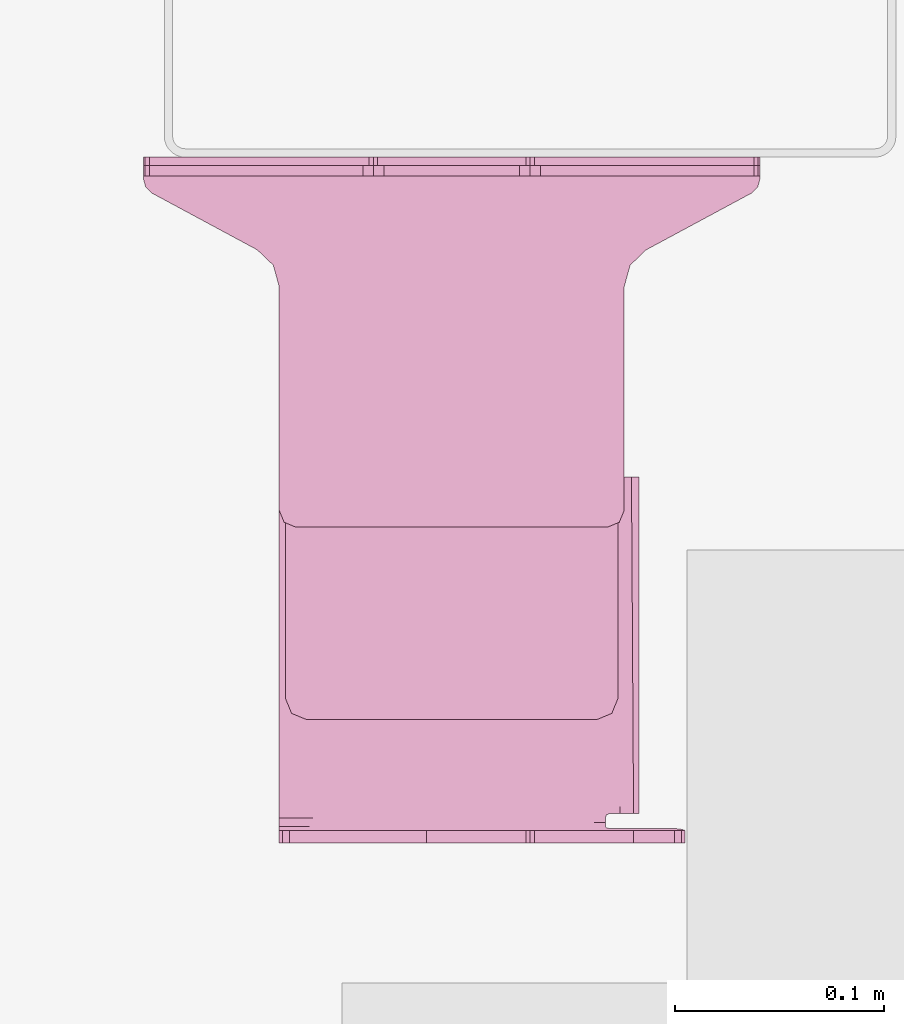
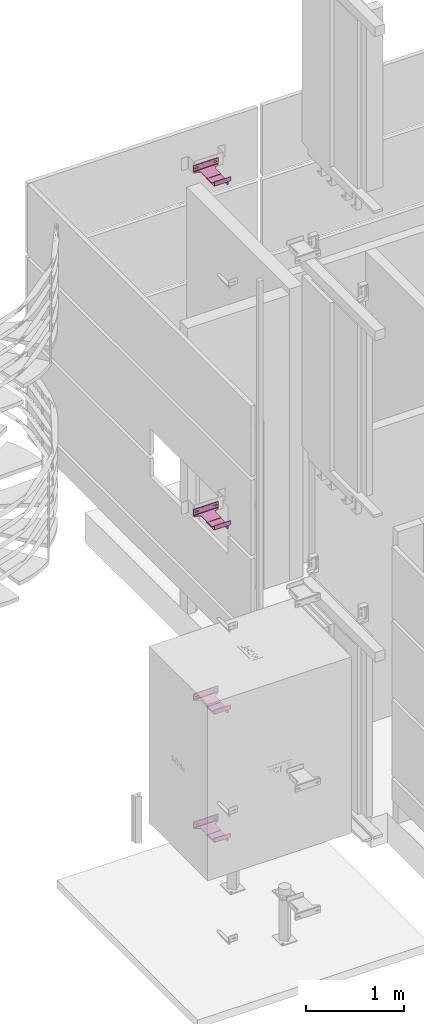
# One storey, part 13 of 15: 4 transport elements.
"""IFC2X3 building model written with IfcOpenShell, lengths in millimetres."""

from ifc_helpers import new_model, entity, si_unit, converted_unit, derived_unit, direction, frame, origin, place, context, subcontext, project, spatial, faceted_brep, source, transform, mapped, material, type_object, type_shapes, element, save


model = new_model("IFC2X3")

# Units and contexts
model_context = context("Model", 3, precision=0.01, world=origin(), true_north=direction((6.12303176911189e-17, 1.0)))
body_context = subcontext(model_context, "Body", "Model", "MODEL_VIEW")
ifc_project = project(units=[si_unit("LENGTHUNIT", "METRE", prefix="MILLI"), si_unit("AREAUNIT", "SQUARE_METRE"), si_unit("VOLUMEUNIT", "CUBIC_METRE"), converted_unit("PLANEANGLEUNIT", "DEGREE", entity("IfcRatioMeasure", 0.0174532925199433), si_unit("PLANEANGLEUNIT", "RADIAN"), dimensions=[0, 0, 0, 0, 0, 0, 0]), si_unit("MASSUNIT", "GRAM", prefix="KILO"), derived_unit("MASSDENSITYUNIT", [(si_unit("MASSUNIT", "GRAM", prefix="KILO"), 1), (si_unit("LENGTHUNIT", "METRE"), -3)]), si_unit("TIMEUNIT", "SECOND"), si_unit("FREQUENCYUNIT", "HERTZ"), si_unit("THERMODYNAMICTEMPERATUREUNIT", "DEGREE_CELSIUS"), derived_unit("THERMALTRANSMITTANCEUNIT", [(si_unit("MASSUNIT", "GRAM", prefix="KILO"), 1), (si_unit("THERMODYNAMICTEMPERATUREUNIT", "KELVIN"), -1), (si_unit("TIMEUNIT", "SECOND"), -3)]), derived_unit("VOLUMETRICFLOWRATEUNIT", [(si_unit("LENGTHUNIT", "METRE"), 3), (si_unit("TIMEUNIT", "SECOND"), -1)]), si_unit("ELECTRICCURRENTUNIT", "AMPERE"), si_unit("ELECTRICVOLTAGEUNIT", "VOLT"), si_unit("POWERUNIT", "WATT"), si_unit("FORCEUNIT", "NEWTON", prefix="KILO"), si_unit("ILLUMINANCEUNIT", "LUX"), si_unit("LUMINOUSFLUXUNIT", "LUMEN"), si_unit("LUMINOUSINTENSITYUNIT", "CANDELA"), derived_unit("USERDEFINED", [(si_unit("MASSUNIT", "GRAM", prefix="KILO"), -1), (si_unit("LENGTHUNIT", "METRE"), -2), (si_unit("TIMEUNIT", "SECOND"), 3), (si_unit("LUMINOUSFLUXUNIT", "LUMEN"), 1)]), derived_unit("LINEARVELOCITYUNIT", [(si_unit("LENGTHUNIT", "METRE"), 1), (si_unit("TIMEUNIT", "SECOND"), -1)]), si_unit("PRESSUREUNIT", "PASCAL"), derived_unit("USERDEFINED", [(si_unit("LENGTHUNIT", "METRE"), -2), (si_unit("MASSUNIT", "GRAM", prefix="KILO"), 1), (si_unit("TIMEUNIT", "SECOND"), -2)])], contexts=[model_context])

# Site, building, storey
site_placement = place(None, frame((-151.875543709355, 2715.0, 0.0)))
site = spatial("IfcSite", under=ifc_project, at=site_placement, Name="Surface", CompositionType="ELEMENT")
building_placement = place(site_placement, origin())
building = spatial("IfcBuilding", under=site, at=building_placement, CompositionType="ELEMENT")
storey_placement = place(building_placement, frame((0.0, 0.0, -135.0)))
storey = spatial("IfcBuildingStorey", under=building, at=storey_placement, Name="uus 1 korrus", CompositionType="ELEMENT", Elevation=-134.99999999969)

# Transport element
ifc_material = material(Name="Generic")
transport_element_type = type_object("IfcTransportElementType", Name="KONE_Car_Bracket_KM51029396V001_L184-394", material=ifc_material)
shared_shape = source(origin(), body_context, "Body", "Brep", [
    faceted_brep([(69.5952722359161, 67.5952722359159, 70.5952722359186), (72.5242044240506, 67.5952722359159, 63.5242044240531), (72.5242044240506, 61.5952722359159, 63.5242044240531), (69.5952722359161, 61.5952722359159, 70.5952722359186), (79.5952722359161, 67.5952722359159, 60.5952722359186), (79.5952722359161, 61.5952722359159, 60.5952722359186), (218.595272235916, 67.5952722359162, 60.5952722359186), (218.595272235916, 61.5952722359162, 60.5952722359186), (69.5952722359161, 67.5952722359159, 260.595272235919), (72.5242044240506, 67.5952722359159, 267.666340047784), (79.5952722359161, 67.5952722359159, 270.595272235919), (218.595272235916, 67.5952722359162, 270.595272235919), (225.666340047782, 67.5952722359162, 267.666340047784), (228.595272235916, 67.5952722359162, 260.595272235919), (228.595272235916, 67.5952722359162, 70.5952722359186), (225.666340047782, 67.5952722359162, 63.5242044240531), (69.5952722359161, 61.5952722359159, 260.595272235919), (72.5242044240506, 61.5952722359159, 267.666340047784), (79.5952722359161, 61.5952722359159, 270.595272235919), (218.595272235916, 61.5952722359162, 270.595272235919), (225.666340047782, 61.5952722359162, 63.5242044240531), (228.595272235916, 61.5952722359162, 70.5952722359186), (228.595272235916, 61.5952722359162, 260.595272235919), (225.666340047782, 61.5952722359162, 267.666340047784)], [[[0, 1, 2, 3]], [[4, 5, 2, 1]], [[5, 4, 6, 7]], [[4, 1, 0, 8, 9, 10, 11, 12, 13, 14, 15, 6]], [[8, 16, 17, 9]], [[17, 18, 10, 9]], [[11, 10, 18, 19]], [[18, 17, 16, 3, 2, 5, 7, 20, 21, 22, 23, 19]], [[21, 20, 15, 14]], [[7, 6, 15, 20]], [[21, 14, 13, 22]], [[22, 13, 12, 23]], [[12, 11, 19, 23]], [[16, 8, 0, 3]]]),
    faceted_brep([(226.595272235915, 115.595272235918, 1.59527223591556), (230.130806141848, 114.130806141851, 1.59527223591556), (231.595272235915, 110.595272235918, 1.59527223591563), (231.595272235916, 67.595272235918, 1.59527223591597), (37.6284704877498, 67.5952722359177, 1.59527223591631), (37.6035786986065, 67.8824046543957, 1.59527223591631), (37.5952722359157, 68.1704942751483, 1.59527223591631), (37.5952722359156, 110.595272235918, 1.59527223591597), (39.0597383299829, 114.13080614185, 1.5952722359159), (42.5952722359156, 115.595272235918, 1.5952722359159), (57.9419603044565, 115.595272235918, 1.5952722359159), (62.0952722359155, 114.095272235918, 1.5952722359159), (66.2485841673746, 115.595272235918, 1.59527223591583), (109.595272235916, 115.595272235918, 1.59527223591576), (111.595272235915, 113.595272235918, 1.59527223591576), (113.595272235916, 115.595272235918, 1.59527223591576), (156.941960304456, 115.595272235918, 1.5952722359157), (161.095272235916, 114.095272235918, 1.5952722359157), (165.248584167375, 115.595272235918, 1.5952722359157), (37.6284704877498, 67.5952722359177, 3.64034257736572), (37.6284704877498, 67.5952722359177, 5.6854129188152), (37.6284704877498, 67.5952722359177, 7.59527223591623), (37.6035786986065, 67.8824046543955, 7.59527223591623), (37.5952722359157, 68.1704942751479, 7.59527223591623), (71.5952722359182, 55.5952722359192, 176.595272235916), (71.5952722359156, 55.5952722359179, 15.5952722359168), (73.5952722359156, 55.5952722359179, 15.5952722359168), (75.0094857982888, 55.5952722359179, 15.0094857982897), (75.5952722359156, 55.5952722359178, 13.5952722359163), (231.595272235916, 55.5952722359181, 13.595272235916), (231.595272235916, 55.5952722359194, 171.595272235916), (230.130806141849, 55.5952722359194, 175.130806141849), (226.595272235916, 55.5952722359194, 176.595272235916), (65.5952722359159, 3.05973832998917, 163.059738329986), (65.5952722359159, 1.97587457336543, 161.437621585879), (65.5952722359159, 1.59527223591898, 159.524204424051), (65.5952722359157, 1.595272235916, 32.6663400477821), (65.5952722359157, 1.97587457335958, 30.7529228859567), (65.5952722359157, 3.05973832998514, 29.1308061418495), (65.5952722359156, 15.1308061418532, 17.059738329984), (65.5952722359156, 16.7529228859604, 15.9758745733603), (65.5952722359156, 18.6663400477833, 15.5952722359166), (65.5952722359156, 28.0200501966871, 15.5952722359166), (65.5952722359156, 49.5952722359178, 15.5952722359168), (65.5952722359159, 49.5952722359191, 176.595272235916), (65.5952722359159, 18.6663400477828, 176.595272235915), (65.5952722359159, 16.7529228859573, 176.214669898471), (65.5952722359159, 15.1308061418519, 175.130806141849), (73.5952722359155, 61.2271358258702, 3.42439033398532), (231.595272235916, 59.1099908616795, 5.10999086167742), (38.6343353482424, 63.9007995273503, 2.17814162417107), (42.5952722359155, 61.2271358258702, 3.42439033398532), (40.5251798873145, 62.6244645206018, 2.77306717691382), (75.5952722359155, 56.4480658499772, 9.15232391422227), (75.5952722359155, 58.8852372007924, 5.34086191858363), (75.3788802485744, 59.5653943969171, 4.72983140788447), (75.1394379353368, 60.3180027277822, 4.05371321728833), (74.3673550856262, 60.7725692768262, 3.73905177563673), (66.8515457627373, 53.2691066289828, 15.5952722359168), (67.352631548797, 53.8379129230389, 176.595272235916), (70.0942919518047, 55.4044940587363, 15.5952722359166), (70.8387442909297, 55.547386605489, 15.5952722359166), (37.5952722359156, 110.595272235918, 7.59527223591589), (39.0597383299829, 114.13080614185, 7.59527223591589), (42.5952722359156, 115.595272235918, 7.59527223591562), (231.595272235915, 110.595272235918, 7.59527223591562), (231.595272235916, 67.5952722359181, 7.59527223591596), (231.595272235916, 63.3526315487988, 9.35263154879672), (231.595272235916, 61.5952722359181, 13.595272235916), (231.595272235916, 61.5952722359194, 171.595272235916), (226.595272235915, 115.595272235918, 7.59527223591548), (230.130806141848, 114.130806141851, 7.59527223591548), (156.941960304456, 115.595272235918, 7.59527223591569), (113.595272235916, 115.595272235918, 7.59527223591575), (165.248584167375, 115.595272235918, 7.59527223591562), (109.595272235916, 115.595272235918, 7.59527223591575), (66.2485841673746, 115.595272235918, 7.59527223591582), (57.9419603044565, 115.595272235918, 7.59527223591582), (161.095272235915, 114.095272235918, 7.59527223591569), (111.595272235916, 113.595272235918, 7.59527223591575), (62.0952722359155, 114.095272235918, 7.59527223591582), (71.5952722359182, 58.5952722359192, 176.595272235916), (226.595272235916, 61.5952722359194, 176.595272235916), (71.5952722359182, 61.5952722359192, 176.595272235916), (63.1099908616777, 58.0805536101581, 176.595272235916), (59.5952722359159, 49.5952722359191, 176.595272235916), (59.5952722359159, 18.6663400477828, 176.595272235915), (230.130806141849, 61.5952722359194, 175.130806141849), (59.595272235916, 18.6663400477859, 15.5952722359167), (59.5952722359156, 16.7529228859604, 15.9758745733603), (59.5952722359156, 15.1308061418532, 17.059738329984), (59.5952722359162, 3.05973832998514, 29.1308061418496), (59.5952722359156, 1.595272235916, 32.6663400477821), (59.5952722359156, 1.97587457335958, 30.7529228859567), (59.5952722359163, 1.595272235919, 159.524204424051), (59.5952722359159, 1.9758745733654, 161.437621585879), (59.5952722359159, 3.05973832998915, 163.059738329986), (59.5952722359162, 15.1308061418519, 175.130806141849), (59.5952722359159, 16.7529228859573, 176.214669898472), (75.0094857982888, 61.5952722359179, 15.0094857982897), (73.5952722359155, 61.5952722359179, 15.5952722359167), (71.5952722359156, 61.5952722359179, 15.5952722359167), (75.5952722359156, 61.5952722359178, 13.5952722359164), (59.5952722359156, 49.5952722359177, 15.5952722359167), (59.5952722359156, 28.020050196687, 15.5952722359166), (73.5952722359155, 64.4112040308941, 8.50983128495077), (38.4171758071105, 66.5517977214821, 7.81905066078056), (39.488083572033, 65.1349631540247, 8.12289805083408), (42.5952722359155, 64.411204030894, 8.50983128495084), (75.5952722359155, 62.0216690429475, 11.3737980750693), (75.5952722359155, 63.2402547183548, 9.46806707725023), (74.9122724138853, 64.0993270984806, 8.71896547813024), (62.1078192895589, 56.9429410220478, 15.5952722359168), (68.5933116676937, 61.2137158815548, 15.5952722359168), (70.0822163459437, 61.4995009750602, 15.5952722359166), (62.5952722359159, 28.0200501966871, 15.5952722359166), (62.5952722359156, 49.5952722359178, 15.5952722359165), (69.3438018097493, 58.3091049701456, 15.5952722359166), (42.5952722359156, 62.2884918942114, 5.11953731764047), (73.5952722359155, 62.0082462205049, 4.67194237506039), (73.5952722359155, 63.3498479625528, 6.81468430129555), (42.5952722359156, 63.3498479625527, 6.81468430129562), (75.5952722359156, 62.1682703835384, 8.4521585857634), (75.5952722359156, 60.3369097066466, 6.71659697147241), (75.1773020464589, 61.9854684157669, 6.33178978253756), (74.5576725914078, 63.018129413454, 6.77008166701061), (75.1888796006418, 62.9910249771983, 7.65785437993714), (74.4643994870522, 62.0836404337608, 5.26641717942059), (40.6636232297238, 63.0740749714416, 5.51840929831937), (38.7335158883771, 65.1496559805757, 6.42524138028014), (38.8110475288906, 64.4780716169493, 4.79301723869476), (40.5644467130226, 63.980378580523, 7.05454162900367)], [[[0, 1, 2, 3, 4, 5, 6, 7, 8, 9, 10, 11, 12, 13, 14, 15, 16, 17, 18]], [[19, 20, 21, 22, 5, 4]], [[22, 23, 6, 5]], [[24, 25, 26, 27, 28, 29, 30, 31, 32]], [[33, 34, 35, 36, 37, 38, 39, 40, 41, 42, 43, 44, 45, 46, 47]], [[3, 48, 4]], [[48, 3, 49]], [[48, 50, 4]], [[48, 51, 52, 50]], [[49, 29, 53]], [[53, 29, 28]], [[49, 53, 54]], [[49, 54, 55, 56]], [[49, 56, 57, 48]], [[58, 59, 44]], [[44, 43, 58]], [[58, 60, 59]], [[61, 24, 60]], [[59, 60, 24]], [[24, 61, 25]], [[7, 62, 63, 8]], [[63, 64, 9, 8]], [[6, 23, 62, 7]], [[65, 66, 67, 68, 69, 30, 29, 49, 3, 2]], [[0, 70, 71, 1]], [[71, 65, 2, 1]], [[72, 16, 15, 73]], [[0, 18, 74, 70]], [[75, 13, 12, 76]], [[10, 9, 64, 77]], [[17, 78, 74, 18]], [[16, 72, 78, 17]], [[15, 14, 79, 73]], [[75, 79, 14, 13]], [[11, 80, 76, 12]], [[10, 77, 80, 11]], [[81, 32, 82]], [[32, 81, 24]], [[81, 82, 83]], [[59, 24, 81]], [[83, 84, 81]], [[81, 84, 59]], [[84, 85, 59]], [[59, 85, 44]], [[85, 45, 44]], [[45, 85, 86]], [[30, 69, 87, 31]], [[87, 82, 32, 31]], [[88, 41, 40, 89]], [[40, 39, 90, 89]], [[39, 38, 91, 90]], [[36, 92, 93, 37]], [[93, 91, 38, 37]], [[94, 92, 36, 35]], [[94, 35, 34, 95]], [[34, 33, 96, 95]], [[97, 96, 33, 47]], [[45, 86, 98, 46]], [[98, 97, 47, 46]], [[66, 65, 71, 70, 74, 78, 72, 73, 79, 75, 76, 80, 77, 64, 63, 62, 23, 22, 21]], [[99, 100, 101, 83, 82, 87, 69, 68, 102]], [[94, 95, 96, 97, 98, 86, 85, 103, 104, 88, 89, 90, 91, 93, 92]], [[21, 105, 66]], [[67, 66, 105]], [[105, 21, 106, 107]], [[108, 105, 107]], [[109, 68, 67]], [[102, 68, 109]], [[110, 109, 67]], [[67, 111, 110]], [[105, 111, 67]], [[85, 84, 112]], [[112, 103, 85]], [[84, 113, 112]], [[113, 83, 114]], [[83, 113, 84]], [[101, 114, 83]], [[115, 88, 104]], [[88, 115, 41]], [[42, 41, 115]], [[115, 104, 103]], [[116, 115, 103]], [[116, 43, 115]], [[42, 115, 43]], [[43, 116, 58]], [[112, 116, 103]], [[112, 58, 116]], [[58, 112, 117]], [[117, 112, 113]], [[114, 117, 113]], [[101, 117, 114]], [[25, 117, 101]], [[25, 101, 100]], [[100, 26, 25]], [[61, 117, 25]], [[60, 117, 61]], [[117, 60, 58]], [[118, 51, 48, 119, 120, 105, 108, 121]], [[54, 53, 28, 102, 109, 110, 122, 123]], [[56, 55, 124]], [[120, 125, 105]], [[126, 122, 110]], [[124, 123, 122]], [[55, 123, 124]], [[125, 124, 126]], [[127, 57, 56]], [[124, 125, 127]], [[127, 119, 57]], [[105, 125, 111]], [[119, 127, 120]], [[127, 125, 120]], [[124, 127, 56]], [[119, 48, 57]], [[111, 125, 126]], [[111, 126, 110]], [[126, 124, 122]], [[55, 54, 123]], [[99, 27, 26, 100]], [[102, 28, 27, 99]], [[128, 118, 121]], [[20, 129, 106]], [[52, 118, 128]], [[52, 130, 50]], [[128, 121, 131]], [[131, 130, 128]], [[19, 130, 20]], [[129, 131, 107]], [[50, 19, 4]], [[50, 130, 19]], [[20, 106, 21]], [[107, 131, 108]], [[52, 128, 130]], [[129, 107, 106]], [[129, 20, 130]], [[52, 51, 118]], [[131, 129, 130]], [[108, 131, 121]]]),
    faceted_brep([(66.5952722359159, 67.5952722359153, 160.595272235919), (68.9384179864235, 67.5952722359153, 154.938417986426), (74.5952722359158, 67.5952722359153, 152.595272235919), (223.595272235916, 67.5952722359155, 152.595272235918), (229.252126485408, 67.5952722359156, 154.938417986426), (231.595272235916, 67.5952722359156, 160.595272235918), (231.595272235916, 67.5952722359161, 267.64939060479), (233.010111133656, 67.5952722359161, 272.777256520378), (234.424950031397, 67.5952722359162, 277.905122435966), (238.629284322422, 67.5952722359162, 281.92646242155), (242.113275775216, 67.5952722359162, 285.258812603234), (292.388070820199, 67.5952722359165, 312.329856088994), (295.463401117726, 67.5952722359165, 315.271332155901), (296.595272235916, 67.5952722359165, 319.37362488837), (296.595272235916, 67.5952722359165, 321.595272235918), (1.59527223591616, 67.595272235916, 321.595272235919), (1.59527223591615, 67.595272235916, 319.37362488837), (2.72714335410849, 67.595272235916, 315.2713321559), (5.80247365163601, 67.5952722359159, 312.329856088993), (56.0772686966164, 67.5952722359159, 285.258812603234), (59.9214315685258, 67.5952722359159, 281.5819675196), (63.7655944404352, 67.5952722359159, 277.905122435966), (65.3129939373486, 67.5952722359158, 272.296811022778), (66.595272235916, 67.5952722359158, 267.64939060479), (296.595272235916, 145.595272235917, 329.595272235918), (295.716592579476, 147.716592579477, 329.595272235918), (293.595272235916, 148.595272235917, 329.595272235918), (276.095272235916, 123.595272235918, 329.595272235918), (283.889500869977, 110.095272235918, 329.595272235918), (296.595272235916, 75.5952722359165, 329.595272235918), (244.095272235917, 123.595272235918, 329.595272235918), (188.595272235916, 148.595272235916, 329.595272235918), (236.301043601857, 119.095272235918, 329.595272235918), (186.595272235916, 146.595272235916, 329.595272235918), (244.095272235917, 105.595272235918, 329.595272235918), (61.8895008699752, 110.095272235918, 329.595272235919), (111.595272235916, 146.595272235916, 329.595272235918), (184.595272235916, 148.595272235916, 329.595272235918), (113.595272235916, 148.595272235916, 329.595272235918), (109.595272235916, 148.595272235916, 329.595272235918), (54.0952722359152, 123.595272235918, 329.595272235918), (4.59527223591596, 148.595272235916, 329.595272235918), (22.0952722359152, 123.595272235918, 329.595272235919), (1.59527223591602, 145.595272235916, 329.595272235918), (2.47395189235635, 147.716592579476, 329.595272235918), (14.3010436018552, 119.095272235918, 329.595272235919), (1.59527223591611, 75.595272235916, 329.595272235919), (22.0952722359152, 105.595272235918, 329.595272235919), (54.0952722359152, 105.595272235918, 329.595272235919), (276.095272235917, 105.595272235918, 329.595272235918), (296.595272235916, 69.9384179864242, 327.252126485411), (1.59527223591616, 69.9384179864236, 327.252126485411), (1.59527223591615, 72.7668451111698, 324.423699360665), (296.595272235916, 72.7668451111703, 324.423699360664), (296.595272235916, 71.5952722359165, 321.595272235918), (1.59527223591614, 71.595272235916, 321.595272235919), (1.59527223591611, 75.595272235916, 325.595272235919), (296.595272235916, 75.5952722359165, 325.595272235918), (1.59527223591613, 71.595272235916, 319.37362488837), (1.59527223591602, 145.595272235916, 325.595272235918), (296.595272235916, 71.5952722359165, 319.37362488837), (296.595272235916, 145.595272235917, 325.595272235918), (242.113275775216, 71.5952722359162, 285.258812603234), (292.388070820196, 71.5952722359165, 312.329856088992), (231.595272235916, 71.5952722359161, 267.64939060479), (233.010111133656, 71.5952722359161, 272.777256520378), (234.424950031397, 71.5952722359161, 277.905122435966), (238.269112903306, 71.5952722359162, 281.5819675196), (231.595272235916, 71.5952722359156, 160.595272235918), (223.595272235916, 71.5952722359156, 152.595272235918), (229.252126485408, 71.5952722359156, 154.938417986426), (74.5952722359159, 71.5952722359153, 152.595272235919), (66.5952722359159, 71.5952722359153, 160.595272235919), (68.9384179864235, 71.5952722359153, 154.938417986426), (66.5952722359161, 71.5952722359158, 267.64939060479), (56.0772686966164, 71.5952722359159, 285.258812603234), (59.9214315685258, 71.5952722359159, 281.5819675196), (63.7655944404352, 71.5952722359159, 277.905122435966), (65.1804333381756, 71.5952722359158, 272.777256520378), (5.802473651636, 71.5952722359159, 312.329856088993), (2.72714335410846, 71.595272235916, 315.2713321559), (295.463401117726, 71.5952722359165, 315.271332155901), (276.095272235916, 105.595272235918, 325.595272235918), (244.095272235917, 105.595272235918, 325.595272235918), (54.0952722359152, 105.595272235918, 325.595272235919), (22.0952722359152, 105.595272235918, 325.595272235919), (283.889500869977, 110.095272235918, 325.595272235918), (276.095272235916, 123.595272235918, 325.595272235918), (244.095272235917, 123.595272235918, 325.595272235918), (22.0952722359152, 123.595272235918, 325.595272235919), (54.0952722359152, 123.595272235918, 325.595272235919), (236.301043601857, 119.095272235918, 325.595272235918), (14.3010436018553, 119.095272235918, 325.595272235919), (61.8895008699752, 110.095272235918, 325.595272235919), (293.595272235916, 148.595272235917, 325.595272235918), (295.716592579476, 147.716592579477, 325.595272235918), (188.595272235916, 148.595272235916, 325.595272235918), (4.59527223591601, 148.595272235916, 325.595272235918), (2.47395189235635, 147.716592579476, 325.595272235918), (109.595272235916, 148.595272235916, 325.595272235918), (111.595272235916, 146.595272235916, 325.595272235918), (186.595272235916, 146.595272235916, 325.595272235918), (184.595272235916, 148.595272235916, 325.595272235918), (113.595272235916, 148.595272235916, 325.595272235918)], [[[0, 1, 2, 3, 4, 5, 6, 7, 8, 9, 10, 11, 12, 13, 14, 15, 16, 17, 18, 19, 20, 21, 22, 23]], [[24, 25, 26]], [[27, 24, 26]], [[27, 28, 24]], [[28, 29, 24]], [[27, 26, 30]], [[26, 31, 30]], [[32, 30, 31]], [[33, 32, 31]], [[32, 33, 34]], [[33, 35, 34]], [[36, 35, 33]], [[33, 37, 36]], [[38, 36, 37]], [[35, 36, 39]], [[40, 35, 39]], [[40, 39, 41]], [[40, 41, 42]], [[42, 41, 43]], [[41, 44, 43]], [[45, 42, 43]], [[45, 43, 46]], [[29, 34, 46]], [[46, 47, 45]], [[47, 46, 48]], [[48, 46, 34]], [[49, 34, 29]], [[35, 48, 34]], [[49, 29, 28]], [[15, 14, 50, 51]], [[50, 29, 46, 51]], [[52, 53, 54, 55]], [[56, 57, 53, 52]], [[52, 55, 58, 16, 15, 51, 46, 43, 59, 56]], [[14, 13, 60, 54, 53, 57, 61, 24, 29, 50]], [[10, 62, 63, 11]], [[64, 65, 66, 8, 7, 6]], [[66, 67, 62, 10, 9, 8]], [[5, 68, 64, 6]], [[3, 69, 70, 4]], [[70, 68, 5, 4]], [[2, 71, 69, 3]], [[0, 72, 73, 1]], [[73, 71, 2, 1]], [[74, 72, 0, 23]], [[75, 76, 77, 21, 20, 19]], [[77, 78, 74, 23, 22, 21]], [[18, 79, 75, 19]], [[16, 58, 80, 17]], [[80, 79, 18, 17]], [[11, 63, 81, 12]], [[81, 60, 13, 12]], [[74, 78, 77, 76, 75, 79, 80, 58, 55, 54, 60, 81, 63, 62, 67, 66, 65, 64, 68, 70, 69, 71, 73, 72]], [[49, 82, 83, 34]], [[48, 84, 85, 47]], [[28, 86, 82, 49]], [[27, 87, 86, 28]], [[30, 88, 87, 27]], [[42, 89, 90, 40]], [[32, 91, 88, 30]], [[34, 83, 91, 32]], [[45, 92, 89, 42]], [[47, 85, 92, 45]], [[35, 93, 84, 48]], [[40, 90, 93, 35]], [[94, 95, 61]], [[94, 61, 87]], [[88, 94, 87]], [[88, 96, 94]], [[61, 86, 87]], [[61, 57, 86]], [[86, 57, 82]], [[57, 83, 82]], [[56, 83, 57]], [[83, 56, 84]], [[84, 56, 85]], [[92, 85, 56]], [[56, 59, 92]], [[59, 89, 92]], [[59, 97, 89]], [[59, 98, 97]], [[89, 97, 90]], [[97, 99, 90]], [[99, 93, 90]], [[99, 100, 93]], [[101, 93, 100]], [[100, 102, 101]], [[102, 100, 103]], [[96, 91, 101]], [[83, 101, 91]], [[83, 93, 101]], [[96, 88, 91]], [[83, 84, 93]], [[39, 99, 97, 41]], [[94, 96, 31, 26]], [[102, 103, 38, 37]], [[36, 38, 103, 100]], [[101, 102, 37, 33]], [[33, 31, 96, 101]], [[100, 99, 39, 36]], [[41, 97, 98, 44]], [[98, 59, 43, 44]], [[24, 61, 95, 25]], [[95, 94, 26, 25]]]),
    faceted_brep([(293.595272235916, 146.595272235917, 320.595272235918), (295.716592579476, 145.716592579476, 320.595272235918), (296.595272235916, 143.595272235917, 320.595272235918), (277.095272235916, 120.595272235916, 320.595272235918), (243.095272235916, 120.595272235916, 320.595272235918), (191.595272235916, 146.595272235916, 320.595272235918), (284.023475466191, 116.595272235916, 320.595272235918), (296.595272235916, 81.5952722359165, 320.595272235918), (277.095272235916, 104.595272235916, 320.595272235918), (293.595272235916, 78.5952722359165, 320.595272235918), (295.716592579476, 79.4739518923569, 320.595272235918), (243.095272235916, 104.595272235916, 320.595272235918), (4.59527223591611, 78.595272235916, 320.595272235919), (55.0952722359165, 104.595272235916, 320.595272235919), (21.0952722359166, 104.595272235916, 320.595272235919), (1.59527223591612, 81.595272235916, 320.595272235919), (2.47395189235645, 79.4739518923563, 320.595272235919), (14.1670690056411, 108.595272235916, 320.595272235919), (1.595272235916, 143.595272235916, 320.595272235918), (21.0952722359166, 120.595272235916, 320.595272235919), (4.595272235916, 146.595272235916, 320.595272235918), (2.47395189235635, 145.716592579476, 320.595272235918), (55.0952722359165, 120.595272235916, 320.595272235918), (106.595272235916, 146.595272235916, 320.595272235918), (62.0234754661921, 116.595272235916, 320.595272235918), (111.595272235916, 136.595272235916, 320.595272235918), (236.16706900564, 108.595272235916, 320.595272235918), (186.595272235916, 136.595272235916, 320.595272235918), (116.595272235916, 146.595272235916, 320.595272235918), (181.595272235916, 146.595272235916, 320.595272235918), (296.595272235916, 143.595272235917, 325.595272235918), (295.716592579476, 145.716592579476, 325.595272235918), (293.595272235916, 146.595272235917, 325.595272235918), (277.095272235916, 120.595272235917, 325.595272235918), (284.023475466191, 108.595272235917, 325.595272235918), (296.595272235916, 81.5952722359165, 325.595272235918), (243.095272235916, 120.595272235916, 325.595272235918), (191.595272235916, 146.595272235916, 325.595272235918), (236.16706900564, 116.595272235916, 325.595272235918), (186.595272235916, 136.595272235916, 325.595272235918), (243.095272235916, 104.595272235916, 325.595272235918), (62.023475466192, 108.595272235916, 325.595272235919), (111.595272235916, 136.595272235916, 325.595272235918), (116.595272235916, 146.595272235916, 325.595272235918), (181.595272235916, 146.595272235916, 325.595272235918), (106.595272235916, 146.595272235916, 325.595272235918), (55.0952722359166, 120.595272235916, 325.595272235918), (4.59527223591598, 146.595272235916, 325.595272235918), (21.0952722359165, 120.595272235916, 325.595272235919), (1.59527223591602, 143.595272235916, 325.595272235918), (2.47395189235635, 145.716592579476, 325.595272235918), (14.1670690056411, 116.595272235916, 325.595272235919), (1.5952722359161, 81.595272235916, 325.595272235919), (21.0952722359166, 104.595272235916, 325.595272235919), (4.59527223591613, 78.595272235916, 325.595272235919), (2.47395189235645, 79.4739518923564, 325.595272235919), (293.595272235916, 78.5952722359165, 325.595272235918), (55.0952722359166, 104.595272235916, 325.595272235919), (277.095272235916, 104.595272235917, 325.595272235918), (295.716592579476, 79.4739518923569, 325.595272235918)], [[[0, 1, 2]], [[3, 0, 2]], [[3, 4, 0]], [[4, 5, 0]], [[6, 3, 2]], [[2, 7, 6]], [[8, 6, 7]], [[8, 7, 9]], [[7, 10, 9]], [[9, 11, 8]], [[12, 11, 9]], [[11, 12, 13]], [[12, 14, 13]], [[14, 12, 15]], [[15, 12, 16]], [[17, 14, 15]], [[18, 17, 15]], [[17, 18, 19]], [[20, 19, 18]], [[18, 21, 20]], [[20, 22, 19]], [[22, 20, 23]], [[23, 24, 22]], [[23, 25, 24]], [[25, 13, 24]], [[26, 13, 25]], [[25, 27, 26]], [[27, 25, 28]], [[27, 28, 29]], [[27, 5, 26]], [[5, 4, 26]], [[13, 26, 11]], [[30, 31, 32]], [[30, 32, 33]], [[30, 33, 34]], [[34, 35, 30]], [[32, 36, 33]], [[32, 37, 36]], [[38, 36, 37]], [[38, 37, 39]], [[38, 39, 40]], [[39, 41, 40]], [[41, 39, 42]], [[43, 42, 39]], [[44, 43, 39]], [[41, 42, 45]], [[46, 41, 45]], [[45, 47, 46]], [[48, 46, 47]], [[49, 48, 47]], [[47, 50, 49]], [[48, 49, 51]], [[52, 51, 49]], [[52, 53, 51]], [[52, 54, 53]], [[55, 54, 52]], [[56, 40, 54]], [[57, 53, 54]], [[57, 54, 40]], [[58, 40, 56]], [[57, 40, 41]], [[56, 35, 58]], [[56, 59, 35]], [[35, 34, 58]], [[54, 12, 9, 56]], [[7, 2, 30, 35]], [[32, 0, 5, 37]], [[44, 29, 28, 43]], [[45, 23, 20, 47]], [[52, 49, 18, 15]], [[7, 35, 59, 10]], [[59, 56, 9, 10]], [[0, 32, 31, 1]], [[31, 30, 2, 1]], [[18, 49, 50, 21]], [[50, 47, 20, 21]], [[12, 54, 55, 16]], [[55, 52, 15, 16]], [[58, 34, 8]], [[6, 8, 34]], [[33, 3, 6]], [[34, 33, 6]], [[4, 3, 33, 36]], [[48, 19, 22, 46]], [[36, 38, 4]], [[26, 4, 38]], [[40, 11, 26]], [[38, 40, 26]], [[8, 11, 40, 58]], [[13, 14, 53, 57]], [[57, 41, 13]], [[24, 13, 41]], [[46, 22, 24]], [[41, 46, 24]], [[48, 51, 19]], [[17, 19, 51]], [[53, 14, 17]], [[51, 53, 17]], [[39, 37, 5, 27]], [[27, 29, 44, 39]], [[43, 28, 25, 42]], [[23, 45, 42, 25]]]),
])
type_shapes(transport_element_type, [shared_shape])
transport_element_1_placement = place(storey_placement, frame((30868.2130393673, 21295.4047279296, -664.595254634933), z_axis=(0.0, 1.0, 0.0), x_axis=(-1.0, 0.0, 0.0)))
element("IfcTransportElement", 1, at=transport_element_1_placement, inside=storey, type_object=transport_element_type, material=ifc_material, Name="KONE_Car_Bracket_KM51029396V001_L184-394:KONE_Car_Bracket_KM51029396V001_L184-394", ObjectType="KONE_Car_Bracket_KM51029396V001_L184-394", CapacityByNumber=0.0, CapacityByWeight=0.0, OperationType="ELEVATOR", context=body_context, shape_type="MappedRepresentation", body=[
    mapped(shared_shape, transform((0.0, 0.0, 0.0), scale=1.0)),
])

# Space
space_placement = place(storey_placement, origin())
space = spatial("IfcSpace", under=storey, at=space_placement, Name="132a", CompositionType="ELEMENT", InteriorOrExteriorSpace="INTERNAL")

# Transport elements
transport_element_2_placement = place(space_placement, frame((30868.2130393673, 21295.4047279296, 935.404796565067), z_axis=(0.0, 1.0, 0.0), x_axis=(-1.0, 0.0, 0.0)))
element("IfcTransportElement", 2, at=transport_element_2_placement, inside=space, type_object=transport_element_type, material=ifc_material, Name="KONE_Car_Bracket_KM51029396V001_L184-394:KONE_Car_Bracket_KM51029396V001_L184-394", ObjectType="KONE_Car_Bracket_KM51029396V001_L184-394", CapacityByNumber=0.0, CapacityByWeight=0.0, OperationType="ELEVATOR", context=body_context, shape_type="MappedRepresentation", body=[
    mapped(shared_shape, transform((0.0, 0.0, 0.0), scale=1.0)),
])
for number, where, z_axis, x_axis in (
    (3, (30868.2130393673, 21295.4047279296, 3235.40487016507), (0.0, 1.0, 0.0), (-1.0, 0.0, 0.0)),
    (4, (30868.2130393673, 21295.4047279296, 7525.40500744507), (0.0, 1.0, 0.0), (-1.0, 0.0, 0.0)),
):
    element("IfcTransportElement", number, at=place(storey_placement, frame(where, z_axis=z_axis, x_axis=x_axis)), inside=storey, type_object=transport_element_type, material=ifc_material, Name="KONE_Car_Bracket_KM51029396V001_L184-394:KONE_Car_Bracket_KM51029396V001_L184-394", ObjectType="KONE_Car_Bracket_KM51029396V001_L184-394", CapacityByNumber=0.0, CapacityByWeight=0.0, OperationType="ELEVATOR", context=body_context, shape_type="MappedRepresentation", body=[
        mapped(shared_shape, transform((0.0, 0.0, 0.0), scale=1.0)),
    ])

save(model, "model.ifc")
